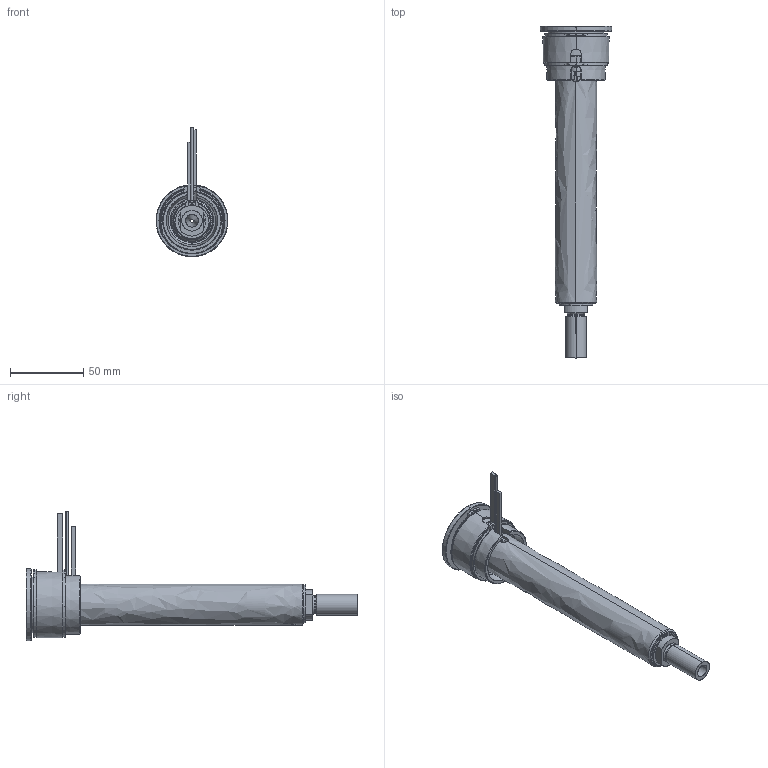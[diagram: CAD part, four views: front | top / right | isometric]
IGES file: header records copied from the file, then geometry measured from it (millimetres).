
Start section: SolidWorks IGES file using analytic representation for surfaces
Global section: file name: C:\Documents and Settings\ws-20\Desktop\TEM\UGBE4504-S-A-P-5 [Ød-2.5 P-25 ØC-09].IGS; native system: SolidWorks 2012; preprocessor: SolidWorks 2012; author: ws-20; date: 120412.153542; units: millimetre
Bounding box: 49 x 226 x 88.15 mm (x, y, z)
Surface area: 71266.7 mm2 (no closed solid volume)
Topology: 0 solids, 0 shells, 164 faces, 3079 edges, 3079 vertices
Faces by surface type: revolution 106, bspline 58
